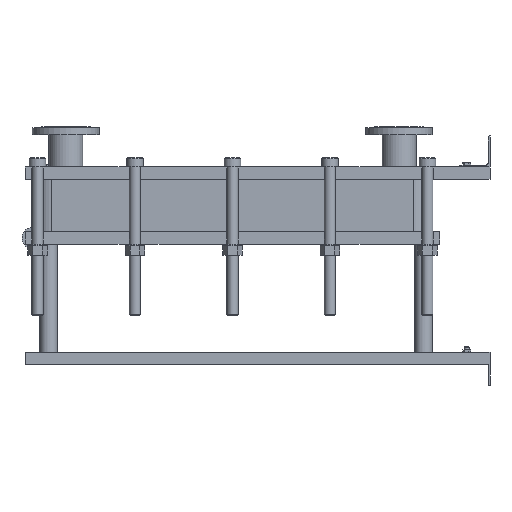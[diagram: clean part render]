
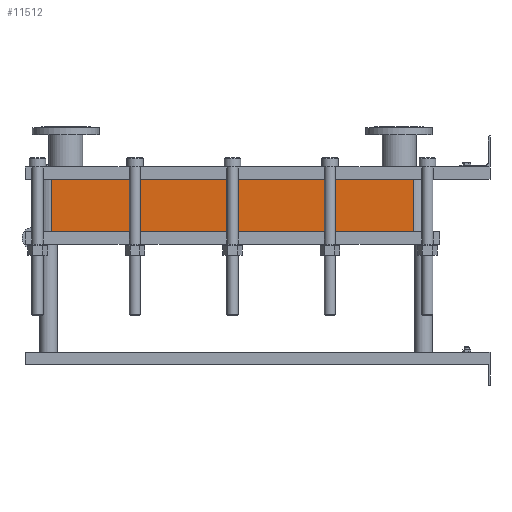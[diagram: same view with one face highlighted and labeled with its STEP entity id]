
A CAD part, left-side view. The second image highlights one B-rep face of the part: STEP entity #11512.
In plain terms, the highlighted planar face has unit normal (-1, 0, 0).
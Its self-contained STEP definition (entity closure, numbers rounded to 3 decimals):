
#1129=LINE('',#23232,#2102);
#1130=LINE('',#23236,#2103);
#1131=LINE('',#23238,#2104);
#1132=LINE('',#23239,#2105);
#2102=VECTOR('',#15887,10.);
#2103=VECTOR('',#15892,10.);
#2104=VECTOR('',#15893,10.);
#2105=VECTOR('',#15894,10.);
#3267=FACE_OUTER_BOUND('',#4093,.T.);
#4093=EDGE_LOOP('',(#10103,#10104,#10105,#10106));
#5642=VERTEX_POINT('',#23229);
#5643=VERTEX_POINT('',#23231);
#5644=VERTEX_POINT('',#23235);
#5645=VERTEX_POINT('',#23237);
#7159=EDGE_CURVE('',#5643,#5642,#1129,.T.);
#7161=EDGE_CURVE('',#5642,#5644,#1130,.T.);
#7162=EDGE_CURVE('',#5645,#5644,#1131,.T.);
#7163=EDGE_CURVE('',#5645,#5643,#1132,.T.);
#10103=ORIENTED_EDGE('',*,*,#7161,.T.);
#10104=ORIENTED_EDGE('',*,*,#7162,.F.);
#10105=ORIENTED_EDGE('',*,*,#7163,.T.);
#10106=ORIENTED_EDGE('',*,*,#7159,.T.);
#10857=PLANE('',#12751);
#11512=ADVANCED_FACE('',(#3267),#10857,.T.);
#12751=AXIS2_PLACEMENT_3D('',#23234,#15890,#15891);
#15887=DIRECTION('',(0.,0.,-1.));
#15890=DIRECTION('center_axis',(-1.,0.,0.));
#15891=DIRECTION('ref_axis',(0.,1.,0.));
#15892=DIRECTION('',(0.,-1.,0.));
#15893=DIRECTION('',(0.,0.,-1.));
#15894=DIRECTION('',(0.,1.,0.));
#23229=CARTESIAN_POINT('',(-200.,1414.,-169.05));
#23231=CARTESIAN_POINT('',(-200.,1414.,0.));
#23232=CARTESIAN_POINT('',(-200.,1414.,0.));
#23234=CARTESIAN_POINT('Origin',(-200.,248.,0.));
#23235=CARTESIAN_POINT('',(-200.,248.,-169.05));
#23236=CARTESIAN_POINT('',(-200.,539.5,-169.05));
#23237=CARTESIAN_POINT('',(-200.,248.,0.));
#23238=CARTESIAN_POINT('',(-200.,248.,0.));
#23239=CARTESIAN_POINT('',(-200.,248.,0.));
